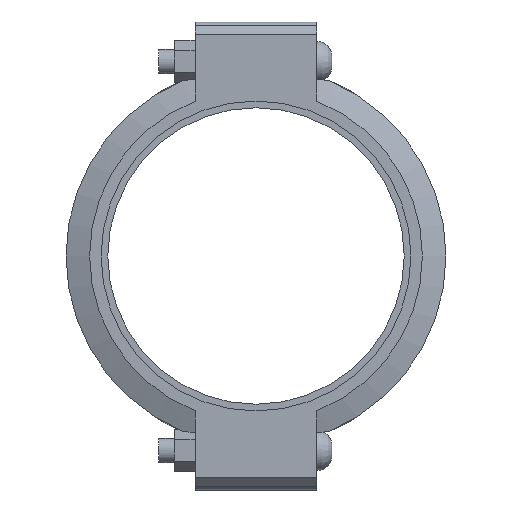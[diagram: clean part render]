
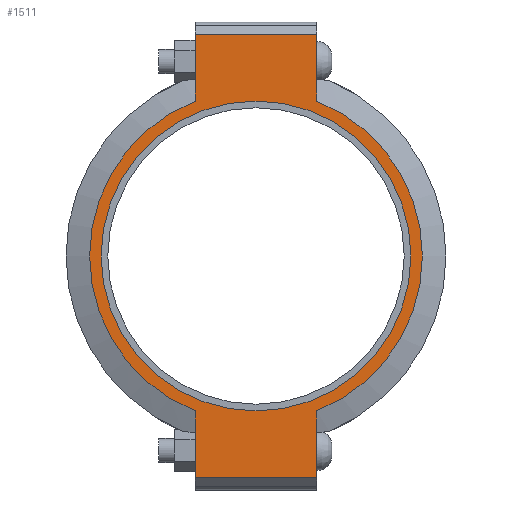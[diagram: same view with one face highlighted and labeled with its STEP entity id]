
A CAD part, left-side view. The second image highlights one B-rep face of the part: STEP entity #1511.
In plain terms, the highlighted planar face has unit normal (-1, 0, 0) as drawn and (0, 0, 1) by its records, which use the part's own axes.
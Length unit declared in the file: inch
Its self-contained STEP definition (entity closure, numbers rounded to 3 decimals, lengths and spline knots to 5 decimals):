
#138=LINE('',#2593,#225);
#149=LINE('',#2644,#236);
#155=LINE('',#2670,#242);
#157=LINE('',#2673,#244);
#158=LINE('',#2678,#245);
#159=LINE('',#2679,#246);
#225=VECTOR('',#2103,0.3937);
#236=VECTOR('',#2134,0.3937);
#242=VECTOR('',#2152,0.3937);
#244=VECTOR('',#2156,0.3937);
#245=VECTOR('',#2161,0.3937);
#246=VECTOR('',#2162,0.3937);
#304=FACE_BOUND('',#463,.T.);
#364=FACE_OUTER_BOUND('',#462,.T.);
#462=EDGE_LOOP('',(#1200,#1201,#1202,#1203,#1204,#1205,#1206,#1207));
#463=EDGE_LOOP('',(#1208));
#568=CIRCLE('',#1774,6.84375);
#569=CIRCLE('',#1775,6.84375);
#570=CIRCLE('',#1776,6.375);
#677=VERTEX_POINT('',#2590);
#678=VERTEX_POINT('',#2592);
#695=VERTEX_POINT('',#2639);
#696=VERTEX_POINT('',#2643);
#703=VERTEX_POINT('',#2665);
#704=VERTEX_POINT('',#2669);
#705=VERTEX_POINT('',#2675);
#706=VERTEX_POINT('',#2677);
#707=VERTEX_POINT('',#2681);
#847=EDGE_CURVE('',#678,#677,#138,.T.);
#868=EDGE_CURVE('',#696,#695,#149,.T.);
#879=EDGE_CURVE('',#704,#703,#155,.T.);
#881=EDGE_CURVE('',#704,#677,#157,.T.);
#882=EDGE_CURVE('',#703,#705,#568,.T.);
#883=EDGE_CURVE('',#705,#706,#158,.T.);
#884=EDGE_CURVE('',#696,#706,#159,.T.);
#885=EDGE_CURVE('',#695,#678,#569,.T.);
#886=EDGE_CURVE('',#707,#707,#570,.T.);
#1200=ORIENTED_EDGE('',*,*,#881,.F.);
#1201=ORIENTED_EDGE('',*,*,#879,.T.);
#1202=ORIENTED_EDGE('',*,*,#882,.T.);
#1203=ORIENTED_EDGE('',*,*,#883,.T.);
#1204=ORIENTED_EDGE('',*,*,#884,.F.);
#1205=ORIENTED_EDGE('',*,*,#868,.T.);
#1206=ORIENTED_EDGE('',*,*,#885,.T.);
#1207=ORIENTED_EDGE('',*,*,#847,.T.);
#1208=ORIENTED_EDGE('',*,*,#886,.T.);
#1363=PLANE('',#1773);
#1511=ADVANCED_FACE('',(#364,#304),#1363,.T.);
#1773=AXIS2_PLACEMENT_3D('',#2674,#2157,#2158);
#1774=AXIS2_PLACEMENT_3D('',#2676,#2159,#2160);
#1775=AXIS2_PLACEMENT_3D('',#2680,#2163,#2164);
#1776=AXIS2_PLACEMENT_3D('',#2682,#2165,#2166);
#2103=DIRECTION('',(1.,0.,0.));
#2134=DIRECTION('',(1.,0.,0.));
#2152=DIRECTION('',(-1.,0.,0.));
#2156=DIRECTION('',(0.,-1.,0.));
#2157=DIRECTION('center_axis',(0.,0.,1.));
#2158=DIRECTION('ref_axis',(-1.,0.,0.));
#2159=DIRECTION('center_axis',(0.,0.,1.));
#2160=DIRECTION('ref_axis',(1.,0.,0.));
#2161=DIRECTION('',(-1.,0.,0.));
#2162=DIRECTION('',(0.,1.,0.));
#2163=DIRECTION('center_axis',(0.,0.,1.));
#2164=DIRECTION('ref_axis',(1.,0.,0.));
#2165=DIRECTION('center_axis',(0.,0.,-1.));
#2166=DIRECTION('ref_axis',(1.,0.,0.));
#2590=CARTESIAN_POINT('',(9.125,-2.5,1.315));
#2592=CARTESIAN_POINT('',(6.37079,-2.5,1.315));
#2593=CARTESIAN_POINT('',(-9.625,-2.5,1.315));
#2639=CARTESIAN_POINT('',(-6.37079,-2.5,1.315));
#2643=CARTESIAN_POINT('',(-9.125,-2.5,1.315));
#2644=CARTESIAN_POINT('',(-9.625,-2.5,1.315));
#2665=CARTESIAN_POINT('',(6.37079,2.5,1.315));
#2669=CARTESIAN_POINT('',(9.125,2.5,1.315));
#2670=CARTESIAN_POINT('',(9.625,2.5,1.315));
#2673=CARTESIAN_POINT('',(9.125,-1.25,1.315));
#2674=CARTESIAN_POINT('Origin',(0.,0.,
1.315));
#2675=CARTESIAN_POINT('',(-6.37079,2.5,1.315));
#2676=CARTESIAN_POINT('Origin',(0.,0.,1.315));
#2677=CARTESIAN_POINT('',(-9.125,2.5,1.315));
#2678=CARTESIAN_POINT('',(9.625,2.5,1.315));
#2679=CARTESIAN_POINT('',(-9.125,1.25,1.315));
#2680=CARTESIAN_POINT('Origin',(0.,0.,1.315));
#2681=CARTESIAN_POINT('',(-6.375,0.,1.315));
#2682=CARTESIAN_POINT('Origin',(0.,0.,1.315));
